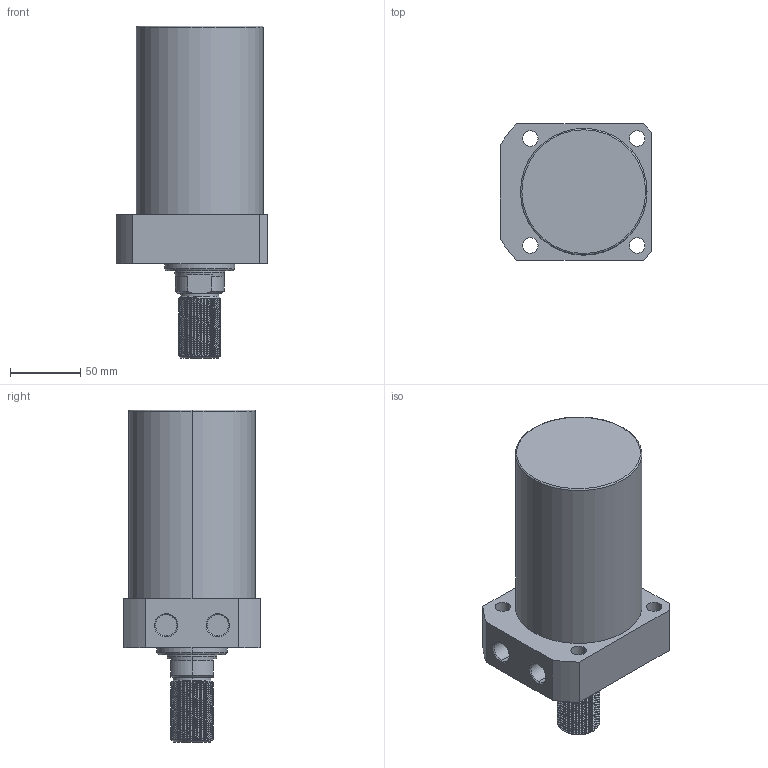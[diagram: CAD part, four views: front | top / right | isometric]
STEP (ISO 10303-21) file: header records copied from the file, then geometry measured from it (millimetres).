
FILE_DESCRIPTION (( 'STEP AP214' ), '1' );
FILE_NAME ('CLLR-090CT-090.STEP', '2020-01-10T01:56:15', ( 'Windows' ), ( 'Microsoft' ), 'SwSTEP 2.0', 'SolidWorks 2015', '' );
FILE_SCHEMA (( 'AUTOMOTIVE_DESIGN' ));
Length unit declared in the file: millimetre
Products named in the file (1): CLLR-090CT-090
Bounding box: 108 x 97 x 236 mm (x, y, z)
Volume: 1246500.2 mm3; surface area: 86630.7 mm2
Topology: 1 solids, 1 shells, 125 faces, 331 edges, 216 vertices
Faces by surface type: cylinder 85, plane 20, cone 16, torus 2, bspline 2
Entity records: 7012 total; most frequent: CARTESIAN_POINT 4116, ORIENTED_EDGE 662, DIRECTION 530, EDGE_CURVE 331, VERTEX_POINT 216, AXIS2_PLACEMENT_3D 204, EDGE_LOOP 141, ADVANCED_FACE 125
